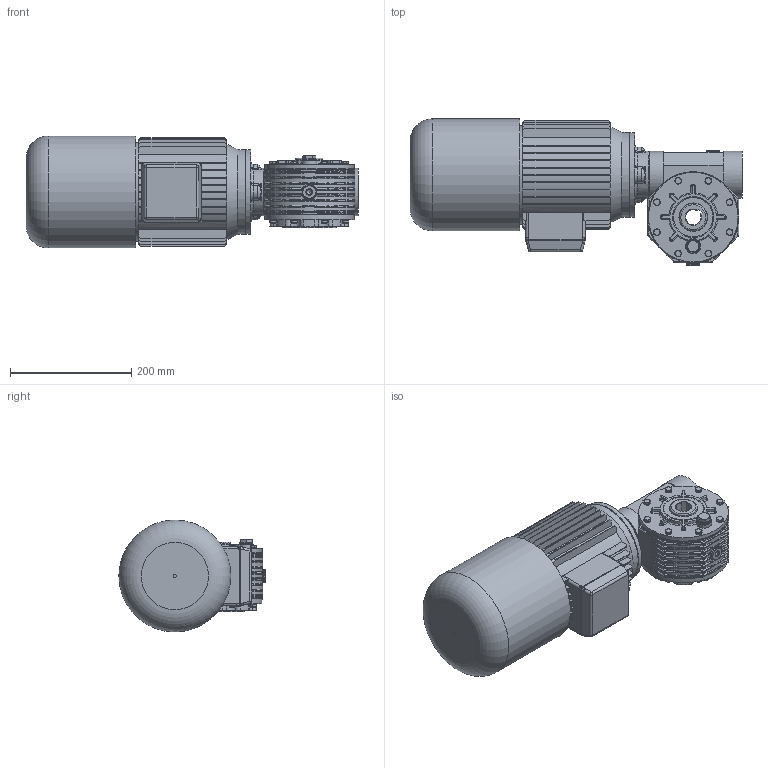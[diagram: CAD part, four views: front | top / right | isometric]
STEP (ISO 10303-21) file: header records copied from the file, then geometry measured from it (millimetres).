
FILE_DESCRIPTION((''),'2;1');
FILE_NAME('Y:\Archivi Inventor\Prog_01\GRAND_30\Figurini\MRV30 sito\90s autofrenante\MRV30_FP2_90s_B14.stp','2013-02-06T11:30:56',('tech3'),(''),'Autodesk Inventor 2013','Autodesk Inventor 2013','');
FILE_SCHEMA(('AUTOMOTIVE_DESIGN { 1 0 10303 214 1 1 1 1 }'));
Length unit declared in the file: millimetre
Products named in the file (18): MRV30_90s_90L_B14; MRV30; 0103001-A2 fig; 0103008.A1 fig F=25; PARAOLIO 45x65x10; RCA_52x7; Guarnizione 3_8 GAS; Tappo 3_8 GAS_esagn_incsst; 0103029; DIN EN 24017 M6 x 20; 0103028; 0103002-A0 fig; DIN EN ISO 4762 M6 x 20; Tappo3_8 GAS; 0103004.A2 fig; UNI 5931 M 8 x  25; 0103006; motori B14 brake 90S
Assembly tree (39 placements, depth 3):
  MRV30_90s_90L_B14
    MRV30
      0103001-A2 fig
      0103008.A1 fig F=25
      PARAOLIO 45x65x10  x2
      RCA_52x7
      Guarnizione 3_8 GAS  x3
      Tappo 3_8 GAS_esagn_incsst  x2
      0103029  x2
      DIN EN 24017 M6 x 20  x8
      0103028
      0103002-A0 fig
      DIN EN ISO 4762 M6 x 20  x8
      Tappo3_8 GAS
      0103004.A2 fig
      UNI 5931 M 8 x  25  x4
    0103006
    motori B14 brake 90S
Bounding box: 548.4 x 241.57 x 185 mm (x, y, z)
Volume: 6775090.2 mm3; surface area: 911935 mm2
Topology: 39 solids, 42 shells, 2040 faces, 4918 edges, 2944 vertices
Faces by surface type: plane 893, cylinder 670, torus 185, bspline 146, cone 122, sphere 24
Full cylindrical faces by diameter (mm): 2 x2, 4.917 x16, 5 x1, 6 x16, 6.5 x32, 6.647 x12, 8 x6, 8.5 x8, 8.88 x8, 9 x4, 9.5 x8, 10 x8, 11 x8, 13 x4, 13.046 x1, 14.95 x3, 16.3 x3, 16.5 x2, 22 x6, 24 x1, 25 x1, 43 x1, 45 x6, 45.76 x1, 50.881 x2, 52 x6, 55 x1, 60.5 x2, 65 x4, 77 x1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
Entity records: 57735 total; most frequent: CARTESIAN_POINT 18129, DIRECTION 8400, ORIENTED_EDGE 7710, EDGE_CURVE 3855, AXIS2_PLACEMENT_3D 3334, VERTEX_POINT 2452, EDGE_LOOP 2068, VECTOR 1732
